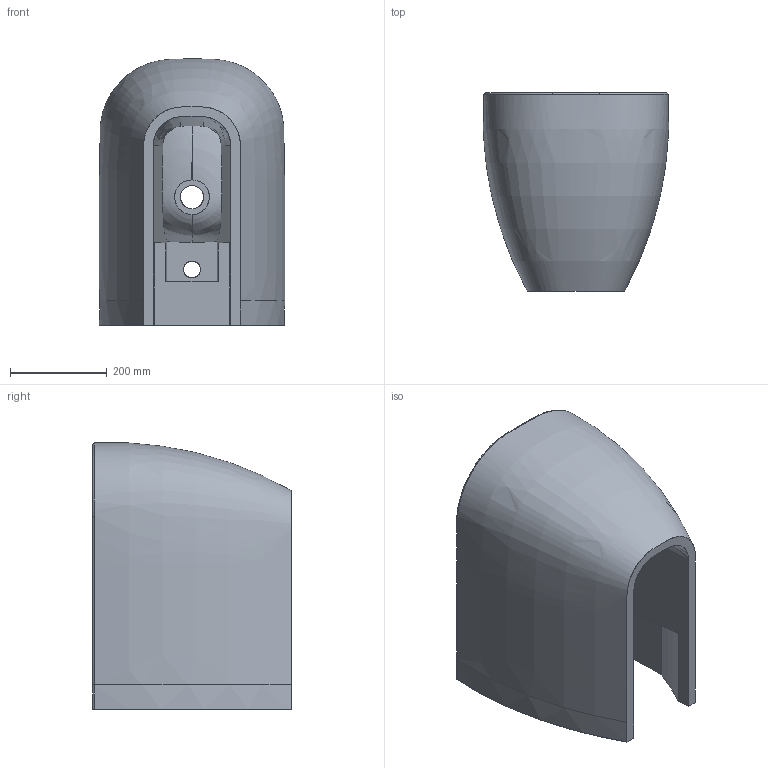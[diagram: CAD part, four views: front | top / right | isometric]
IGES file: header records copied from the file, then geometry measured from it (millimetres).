
Start section: SolidWorks IGES file using NURBS representation for surfaces
Global section: file name: C:\Users\User\Desktop\forever\bidet Forever 55 terra.IGS; native system: SolidWorks 2016; preprocessor: SolidWorks 2016; author: User; date: 200611.102540; units: millimetre
Bounding box: 383.37 x 410 x 550.15 mm (x, y, z)
Surface area: 1298746.3 mm2 (no closed solid volume)
Topology: 0 solids, 0 shells, 58 faces, 1406 edges, 1406 vertices
Faces by surface type: bspline 58
